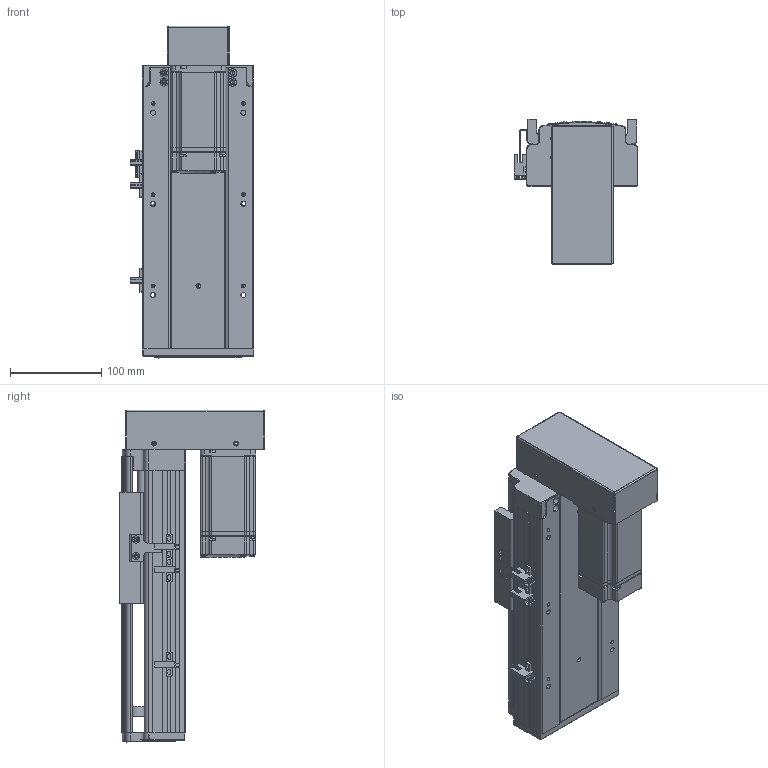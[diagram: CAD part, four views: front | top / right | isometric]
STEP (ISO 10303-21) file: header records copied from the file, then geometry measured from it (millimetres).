
FILE_DESCRIPTION (( 'STEP AP203' ), '1' );
FILE_NAME ('RY120-L2020-300-BK.SLDASM_100.step', '2021-03-12T06:57:01', ( '盈信电脑' ), ( '东莞市道滘镇水果街19号' ), 'SwSTEP 2.0', 'SolidWorks 2012', '' );
FILE_SCHEMA (( 'CONFIG_CONTROL_DESIGN' ));
Length unit declared in the file: millimetre
Products named in the file (15): RY120-L2020-300-BK.SLDASM_100; RY120-400W萇儂傷-BK; RY120下折折电机安装板; 15; 侂狟400W侜督萇儂; RY120狟殏萇儂欶; 滅袉蝶18-24; RY120转拆电端丝杆支撑座(20丝杆，7002轴承); RY120外置感应片(140共用）; RY120綴裔啣; 覜茼ん672; RY120臏賑輸(20蹟譫); 滅袉蝶18-10; RY120-300-BK蛌殏倰第奻裔啣_100; RY120-300-BK蛌殏倰第菁釱_100
Assembly tree (17 placements, depth 4):
  RY120-L2020-300-BK.SLDASM_100
    RY120-300-BK蛌殏倰第菁釱_100
    RY120-300-BK蛌殏倰第奻裔啣_100
    RY120臏賑輸(20蹟譫)
    RY120綴裔啣
    覜茼ん672  x3
    滅袉蝶18-10
    滅袉蝶18-24  x2
    RY120外置感应片(140共用）
    RY120转拆电端丝杆支撑座(20丝杆，7002轴承)
    RY120-400W萇儂傷-BK
      侂狟400W侜督萇儂
        15
      RY120狟殏萇儂欶
      RY120下折折电机安装板
Bounding box: 135.7 x 159.5 x 364 mm (x, y, z)
Volume: 1539348.4 mm3; surface area: 515431.9 mm2
Topology: 16 solids, 16 shells, 2184 faces, 5947 edges, 3820 vertices
Faces by surface type: plane 1176, cylinder 736, cone 167, bspline 105
Entity records: 70919 total; most frequent: CARTESIAN_POINT 19191, ORIENTED_EDGE 10678, DIRECTION 9983, EDGE_CURVE 5339, VERTEX_POINT 3488, LINE 3477, VECTOR 3477, AXIS2_PLACEMENT_3D 3253
